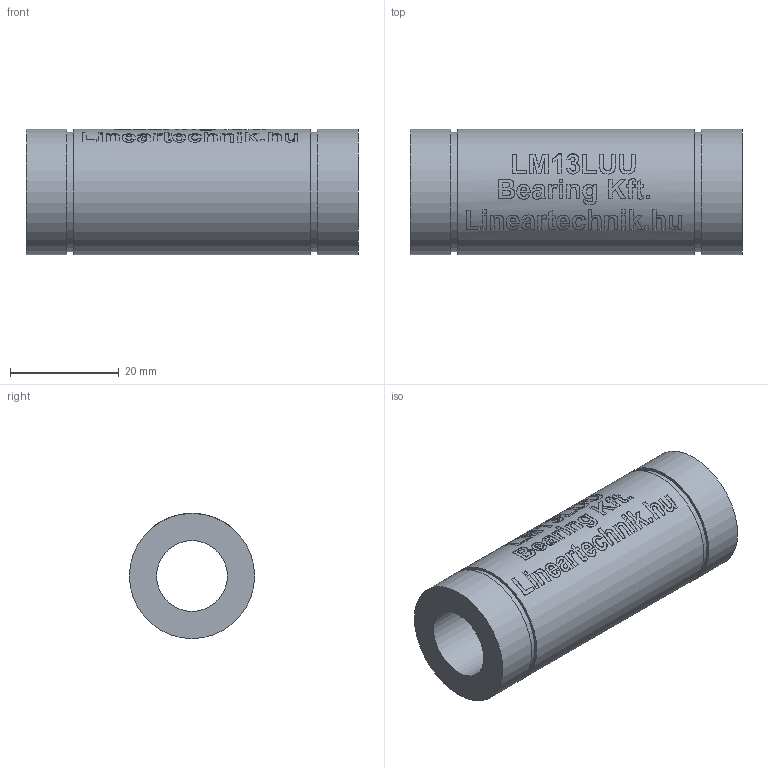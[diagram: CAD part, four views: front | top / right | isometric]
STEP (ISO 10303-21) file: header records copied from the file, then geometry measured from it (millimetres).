
FILE_DESCRIPTION(/* description */ (''),/* implementation_level */ '2;1');
FILE_NAME(/* name */ 'LM13LUU',/* time_stamp */ '2019-05-16T09:38:18+02:00',/* author */ ('VĂ©gh MĂˇtĂ©'),/* organization */ ('Bearing Kft'),/* preprocessor_version */ 'ST-DEVELOPER v16.7',/* originating_system */ 'DEX',/* authorisation */ $);
FILE_SCHEMA (('AUTOMOTIVE_DESIGN {1 0 10303 214 3 1 1}'));
Length unit declared in the file: millimetre
Products named in the file (1): LM13LUU
Bounding box: 61 x 23 x 23 mm (x, y, z)
Volume: 17140.5 mm3; surface area: 7645.3 mm2
Topology: 1 solids, 1 shells, 310 faces, 780 edges, 521 vertices
Faces by surface type: plane 162, bspline 97, cylinder 51
Full cylindrical faces by diameter (mm): 13 x1, 22 x2, 23 x3
Entity records: 18844 total; most frequent: CARTESIAN_POINT 11914, ORIENTED_EDGE 1542, DIRECTION 1150, EDGE_CURVE 771, VERTEX_POINT 519, LINE 424, VECTOR 424, EDGE_LOOP 368
